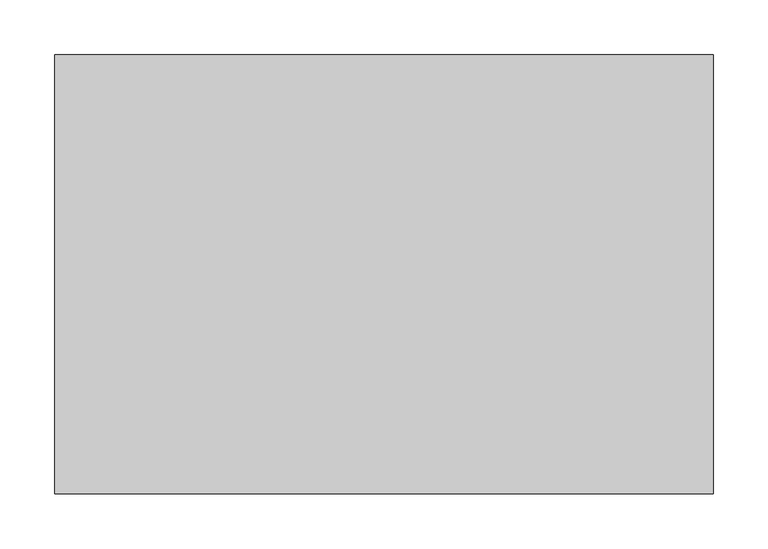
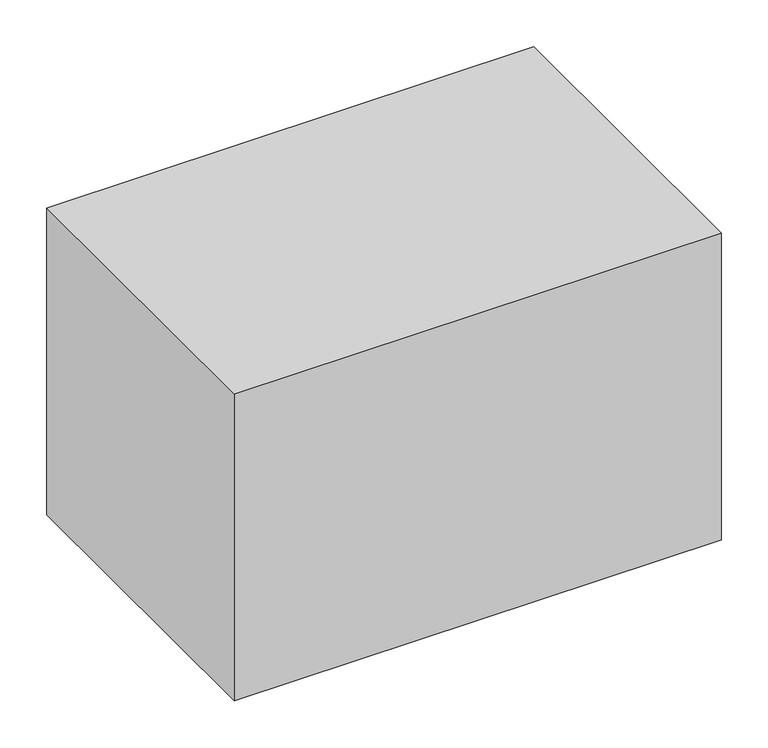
"""IFC4 building model written with IfcOpenShell, lengths in millimetres: proxy geometry, Movél1 : Movél."""

from ifc_helpers import new_model, si_unit, frame, origin, place, context, project, spatial, polyline, outline, extrude, source, transform, mapped, element, save


def generic_models_15d7caf9(model_context):
    return source(origin(), model_context, "Body", "SweptSolid", [
        extrude(outline(polyline([(19591.5462457, 11080.4374423), (19591.5462457, 10680.4374423), (18991.5462457, 10680.4374423), (18991.5462457, 11080.4374423), (19591.5462457, 11080.4374423)])), frame((0.0, 0.0, 400.0), z_axis=(0.0, 0.0, 1.0), x_axis=(1.0, 0.0, 0.0)), (0.0, 0.0, 1.0), 400.0),
    ])


if __name__ == "__main__":
    model = new_model("IFC4")
    model_context = context("Model", 3, world=origin())
    ifc_project = project(units=[si_unit("LENGTHUNIT", "METRE", prefix="MILLI")], contexts=[model_context])
    site = spatial("IfcSite", under=ifc_project)
    building = spatial("IfcBuilding", under=site)
    placement = place(None, origin())
    generic_models_shape = generic_models_15d7caf9(model_context)
    element("IfcBuildingElementProxy", 1, Name="Movél1 : Movél", ObjectType="Movél1 : Movél", at=placement, inside=building, context=model_context, shape_type="MappedRepresentation", body=[
        mapped(generic_models_shape, transform((0.0, 0.0, 0.0), x_axis=(1.0, 0.0, 0.0), y_axis=(0.0, 1.0, 0.0), z_axis=(0.0, 0.0, 1.0))),
    ])
    save(model, "model.ifc")
